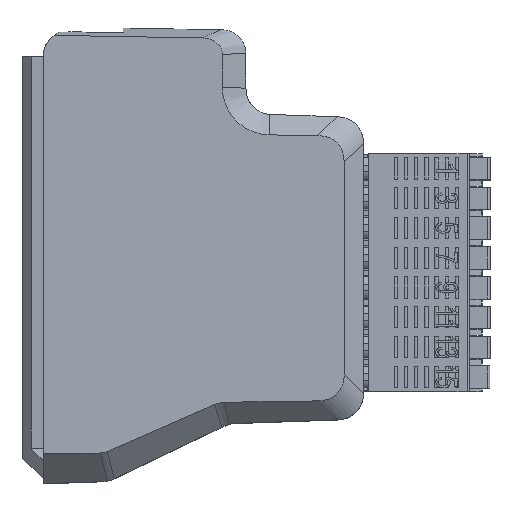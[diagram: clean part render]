
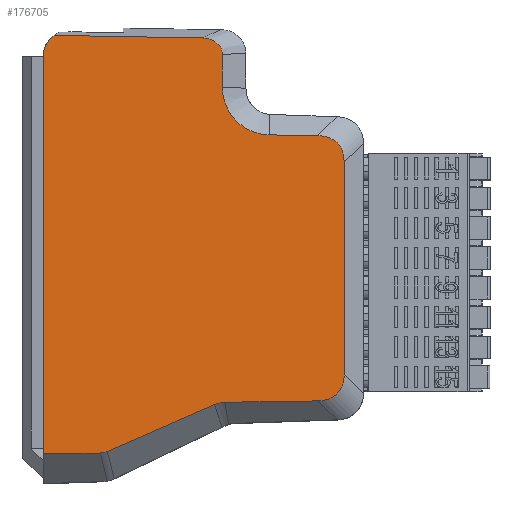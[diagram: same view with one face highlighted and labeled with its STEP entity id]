
A CAD part, top view. The second image highlights one B-rep face of the part: STEP entity #176705.
In plain terms, the highlighted planar face has unit normal (0.035, 0, 0.999).
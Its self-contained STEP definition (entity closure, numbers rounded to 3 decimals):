
#171884=DIRECTION('',(0.,1.,0.));
#171885=VECTOR('',#171884,46.7);
#171886=CARTESIAN_POINT('',(-8.3,-5.55,17.94));
#171887=LINE('',#171886,#171885);
#172989=CARTESIAN_POINT('',(-7.033,43.628,
17.896));
#172990=CARTESIAN_POINT('',(-7.115,43.571,
17.899));
#172991=CARTESIAN_POINT('',(-7.268,43.456,
17.904));
#172992=CARTESIAN_POINT('',(-7.467,43.278,
17.911));
#172993=CARTESIAN_POINT('',(-7.64,43.093,
17.917));
#172994=CARTESIAN_POINT('',(-7.79,42.9,
17.922));
#172995=CARTESIAN_POINT('',(-7.919,42.698,
17.927));
#172996=CARTESIAN_POINT('',(-8.03,42.486,
17.931));
#172997=CARTESIAN_POINT('',(-8.123,42.26,
17.934));
#172998=CARTESIAN_POINT('',(-8.198,42.017,
17.936));
#172999=CARTESIAN_POINT('',(-8.255,41.756,
17.938));
#173000=CARTESIAN_POINT('',(-8.291,41.47,
17.94));
#173001=CARTESIAN_POINT('',(-8.3,41.26,17.94));
#173002=CARTESIAN_POINT('',(-8.3,41.15,17.94));
#173004=DIRECTION('',(0.999,-0.017,-0.035));
#173005=VECTOR('',#173004,17.464);
#173006=CARTESIAN_POINT('',(-7.033,43.628,
17.896));
#173007=LINE('',#173006,#173005);
#173008=CARTESIAN_POINT('',(12.755,41.372,
17.205));
#173009=CARTESIAN_POINT('',(12.755,41.55,
17.205));
#173010=CARTESIAN_POINT('',(12.702,41.851,
17.207));
#173011=CARTESIAN_POINT('',(12.538,42.221,
17.212));
#173012=CARTESIAN_POINT('',(12.312,42.53,
17.22));
#173013=CARTESIAN_POINT('',(11.943,42.876,
17.233));
#173014=CARTESIAN_POINT('',(11.482,43.13,
17.249));
#173015=CARTESIAN_POINT('',(10.918,43.284,
17.269));
#173016=CARTESIAN_POINT('',(10.595,43.32,
17.28));
#173017=CARTESIAN_POINT('',(10.418,43.323,
17.286));
#173019=CARTESIAN_POINT('',(27.055,28.778,
16.705));
#173020=CARTESIAN_POINT('',(27.055,29.035,
16.705));
#173021=CARTESIAN_POINT('',(27.011,29.505,
16.707));
#173022=CARTESIAN_POINT('',(26.78,30.306,
16.715));
#173023=CARTESIAN_POINT('',(26.259,31.077,
16.733));
#173024=CARTESIAN_POINT('',(25.464,31.577,
16.761));
#173025=CARTESIAN_POINT('',(24.649,31.802,
16.789));
#173026=CARTESIAN_POINT('',(24.175,31.848,
16.806));
#173027=CARTESIAN_POINT('',(23.918,31.852,
16.815));
#173029=DIRECTION('',(0.,-1.,0.));
#173030=VECTOR('',#173029,25.036);
#173031=CARTESIAN_POINT('',(27.055,28.778,
16.705));
#173032=LINE('',#173031,#173030);
#173033=CARTESIAN_POINT('',(23.918,0.668,
16.815));
#173034=CARTESIAN_POINT('',(24.175,0.672,
16.806));
#173035=CARTESIAN_POINT('',(24.649,0.718,
16.789));
#173036=CARTESIAN_POINT('',(25.464,0.943,
16.761));
#173037=CARTESIAN_POINT('',(26.259,1.443,
16.733));
#173038=CARTESIAN_POINT('',(26.78,2.214,
16.715));
#173039=CARTESIAN_POINT('',(27.011,3.015,
16.707));
#173040=CARTESIAN_POINT('',(27.055,3.485,
16.705));
#173041=CARTESIAN_POINT('',(27.055,3.742,
16.705));
#173043=CARTESIAN_POINT('',(-1.603,-5.453,
17.706));
#173044=CARTESIAN_POINT('',(-1.319,-5.449,
17.696));
#173045=CARTESIAN_POINT('',(-1.046,-5.391,
17.687));
#173046=CARTESIAN_POINT('',(-0.786,-5.277,
17.678));
#173048=DIRECTION('',(0.999,0.014,-0.035));
#173049=VECTOR('',#173048,6.702);
#173050=CARTESIAN_POINT('',(-8.3,-5.55,17.94));
#173051=LINE('',#173050,#173049);
#173320=CARTESIAN_POINT('',(18.247,31.934,
17.013));
#173321=CARTESIAN_POINT('',(18.018,31.937,
17.021));
#173322=CARTESIAN_POINT('',(17.588,31.971,
17.036));
#173323=CARTESIAN_POINT('',(16.81,32.12,
17.063));
#173324=CARTESIAN_POINT('',(15.96,32.426,
17.093));
#173325=CARTESIAN_POINT('',(15.086,32.938,
17.123));
#173326=CARTESIAN_POINT('',(14.339,33.574,
17.149));
#173327=CARTESIAN_POINT('',(13.713,34.331,
17.171));
#173328=CARTESIAN_POINT('',(13.214,35.212,
17.189));
#173329=CARTESIAN_POINT('',(12.92,36.067,
17.199));
#173330=CARTESIAN_POINT('',(12.783,36.847,
17.204));
#173331=CARTESIAN_POINT('',(12.755,37.278,
17.205));
#173332=CARTESIAN_POINT('',(12.755,37.507,
17.205));
#173364=DIRECTION('',(0.,1.,0.));
#173365=VECTOR('',#173364,3.866);
#173366=CARTESIAN_POINT('',(12.755,37.507,
17.205));
#173367=LINE('',#173366,#173365);
#173427=DIRECTION('',(0.999,-0.014,-0.035));
#173428=VECTOR('',#173427,5.675);
#173429=CARTESIAN_POINT('',(18.247,31.934,
17.013));
#173430=LINE('',#173429,#173428);
#173606=CARTESIAN_POINT('',(11.811,0.248,
17.238));
#173607=CARTESIAN_POINT('',(12.198,0.418,
17.224));
#173608=CARTESIAN_POINT('',(12.603,0.504,
17.21));
#173609=CARTESIAN_POINT('',(13.026,0.511,
17.195));
#173631=DIRECTION('',(0.999,0.014,-0.035));
#173632=VECTOR('',#173631,10.9);
#173633=CARTESIAN_POINT('',(13.026,0.511,
17.195));
#173634=LINE('',#173633,#173632);
#173635=DIRECTION('',(0.915,0.401,-0.032));
#173636=VECTOR('',#173635,13.762);
#173637=CARTESIAN_POINT('',(-0.786,-5.277,
17.678));
#173638=LINE('',#173637,#173636);
#174215=VERTEX_POINT('',#173606);
#174216=VERTEX_POINT('',#173609);
#174225=VERTEX_POINT('',#173320);
#174226=VERTEX_POINT('',#173332);
#174307=CARTESIAN_POINT('',(-8.3,41.15,17.94));
#174309=VERTEX_POINT('',#174307);
#174329=CARTESIAN_POINT('',(-8.3,-5.55,17.94));
#174331=VERTEX_POINT('',#174329);
#174342=CARTESIAN_POINT('',(-1.603,-5.453,
17.706));
#174343=VERTEX_POINT('',#174342);
#174344=VERTEX_POINT('',#173046);
#174393=VERTEX_POINT('',#173033);
#174394=VERTEX_POINT('',#173041);
#174414=VERTEX_POINT('',#173019);
#174415=VERTEX_POINT('',#173027);
#174474=VERTEX_POINT('',#172989);
#174506=VERTEX_POINT('',#173008);
#174507=VERTEX_POINT('',#173017);
#176672=CARTESIAN_POINT('',(-8.3,-10.901,17.94));
#176673=DIRECTION('',(-0.035,0.,-0.999));
#176674=DIRECTION('',(0.,-1.,0.));
#176675=AXIS2_PLACEMENT_3D('',#176672,#176673,#176674);
#176676=PLANE('',#176675);
#176677=ORIENTED_EDGE('',*,*,#175401,.F.);
#176679=ORIENTED_EDGE('',*,*,#176678,.T.);
#176681=ORIENTED_EDGE('',*,*,#176680,.F.);
#176683=ORIENTED_EDGE('',*,*,#176682,.F.);
#176685=ORIENTED_EDGE('',*,*,#176684,.F.);
#176687=ORIENTED_EDGE('',*,*,#176686,.T.);
#176689=ORIENTED_EDGE('',*,*,#176688,.F.);
#176691=ORIENTED_EDGE('',*,*,#176690,.T.);
#176693=ORIENTED_EDGE('',*,*,#176692,.F.);
#176695=ORIENTED_EDGE('',*,*,#176694,.F.);
#176697=ORIENTED_EDGE('',*,*,#176696,.F.);
#176699=ORIENTED_EDGE('',*,*,#176698,.F.);
#176700=ORIENTED_EDGE('',*,*,#176636,.F.);
#176701=ORIENTED_EDGE('',*,*,#176655,.F.);
#176702=ORIENTED_EDGE('',*,*,#175351,.T.);
#176703=EDGE_LOOP('',(#176677,#176679,#176681,#176683,#176685,#176687,#176689,
#176691,#176693,#176695,#176697,#176699,#176700,#176701,#176702));
#176704=FACE_OUTER_BOUND('',#176703,.F.);
#173003=B_SPLINE_CURVE_WITH_KNOTS('',3,(#172989,#172990,#172991,#172992,#172993,
#172994,#172995,#172996,#172997,#172998,#172999,#173000,#173001,#173002),
.UNSPECIFIED.,.F.,.F.,(4,1,1,1,1,1,1,1,1,1,1,4),(0.,0.091,
0.182,0.273,0.364,0.455,
0.545,0.636,0.727,0.818,
0.909,1.),.UNSPECIFIED.);
#173018=B_SPLINE_CURVE_WITH_KNOTS('',3,(#173008,#173009,#173010,#173011,#173012,
#173013,#173014,#173015,#173016,#173017),.UNSPECIFIED.,.F.,.F.,(4,1,1,1,1,1,1,
4),(0.,0.125,0.25,0.375,0.5,0.75,0.875,1.),.UNSPECIFIED.);
#173028=B_SPLINE_CURVE_WITH_KNOTS('',3,(#173019,#173020,#173021,#173022,#173023,
#173024,#173025,#173026,#173027),.UNSPECIFIED.,.F.,.F.,(4,1,1,1,1,1,4),(0.,
0.125,0.25,0.5,0.75,0.875,1.),.UNSPECIFIED.);
#173042=B_SPLINE_CURVE_WITH_KNOTS('',3,(#173033,#173034,#173035,#173036,#173037,
#173038,#173039,#173040,#173041),.UNSPECIFIED.,.F.,.F.,(4,1,1,1,1,1,4),(0.,
0.125,0.25,0.5,0.75,0.875,1.),.UNSPECIFIED.);
#173047=B_SPLINE_CURVE_WITH_KNOTS('',3,(#173043,#173044,#173045,#173046),
.UNSPECIFIED.,.F.,.F.,(4,4),(0.,1.),.UNSPECIFIED.);
#173333=B_SPLINE_CURVE_WITH_KNOTS('',3,(#173320,#173321,#173322,#173323,#173324,
#173325,#173326,#173327,#173328,#173329,#173330,#173331,#173332),.UNSPECIFIED.,
.F.,.F.,(4,1,1,1,1,1,1,1,1,1,4),(0.,0.063,0.125,0.25,0.375,0.5,
0.625,0.75,0.875,0.938,1.),.UNSPECIFIED.);
#173610=B_SPLINE_CURVE_WITH_KNOTS('',3,(#173606,#173607,#173608,#173609),
.UNSPECIFIED.,.F.,.F.,(4,4),(0.,1.),.UNSPECIFIED.);
#175351=EDGE_CURVE('',#174331,#174309,#171887,.T.);
#175401=EDGE_CURVE('',#174474,#174309,#173003,.T.);
#176636=EDGE_CURVE('',#174343,#174344,#173047,.T.);
#176655=EDGE_CURVE('',#174331,#174343,#173051,.T.);
#176678=EDGE_CURVE('',#174474,#174507,#173007,.T.);
#176680=EDGE_CURVE('',#174506,#174507,#173018,.T.);
#176682=EDGE_CURVE('',#174226,#174506,#173367,.T.);
#176684=EDGE_CURVE('',#174225,#174226,#173333,.T.);
#176686=EDGE_CURVE('',#174225,#174415,#173430,.T.);
#176688=EDGE_CURVE('',#174414,#174415,#173028,.T.);
#176690=EDGE_CURVE('',#174414,#174394,#173032,.T.);
#176692=EDGE_CURVE('',#174393,#174394,#173042,.T.);
#176694=EDGE_CURVE('',#174216,#174393,#173634,.T.);
#176696=EDGE_CURVE('',#174215,#174216,#173610,.T.);
#176698=EDGE_CURVE('',#174344,#174215,#173638,.T.);
#176705=ADVANCED_FACE('',(#176704),#176676,.F.);
